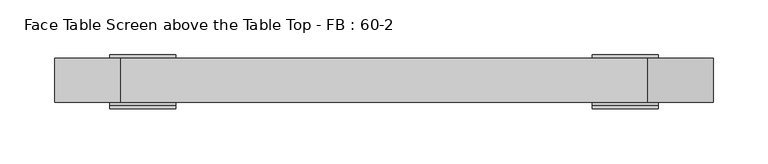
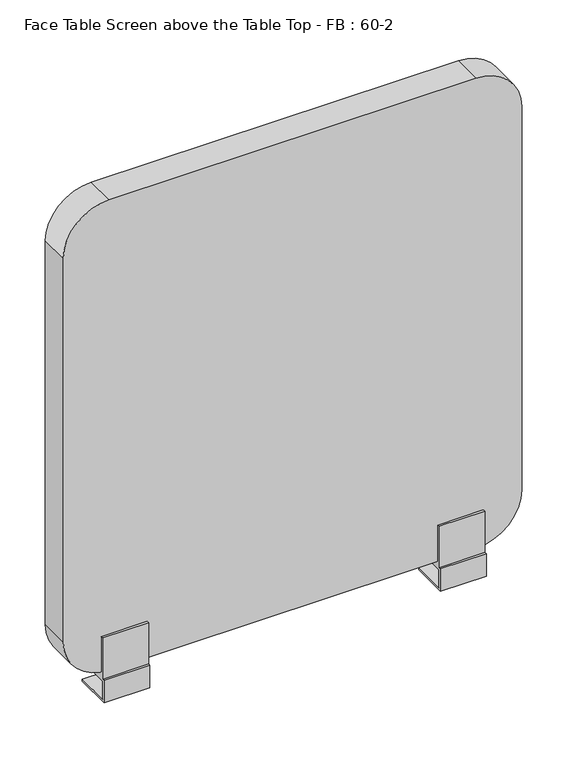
"""IFC4 building model written with IfcOpenShell, lengths in millimetres: furniture geometry, Face Table Screen above the Table Top - FB : 60-2."""

from ifc_helpers import new_model, si_unit, point, frame, frame_2d, origin, place, context, project, spatial, polyline, circle_curve, trimmed, segment, composite_curve, outline, extrude, source, transform, mapped, element, save
from ifc_brep_helpers import plane_surface, cylinder_surface, advanced_brep


def face_table_screen_above_the_table_top_fb_60_2_10286fe6(model_context):
    return source(origin(), model_context, "Body", "SolidModel", [
        advanced_brep(
        [(-225.0, 20.0, -39.4406633), (-215.0, 20.0, -39.4406633), (-215.0, 20.0, -28.0), (-225.0, 20.0, -28.0), (-250.0, 43.0, -25.0), (-250.0, -3.0, -25.0), (-190.0, -3.0, -25.0), (-190.0, 43.0, -25.0), (-250.0, -3.0, 0.0), (-250.0, 43.0, -28.0), (-250.0, -6.0, -28.0), (-250.0, -6.0, 3.0), (-250.0, -3.0, 3.0), (-250.0, -3.0, 60.0), (-250.0, 0.0, 60.0), (-250.0, 0.0, 10.0), (-250.0, 40.0, 10.0), (-250.0, 40.0, 60.0), (-250.0, 43.0, 60.0), (-250.0, 43.0, 0.0), (-190.0, -3.0, 0.0), (-190.0, 43.0, 0.0), (-190.0, 43.0, 60.0), (-190.0, 40.0, 60.0), (-190.0, 40.0, 10.0), (-190.0, 0.0, 10.0), (-190.0, 0.0, 60.0), (-190.0, -3.0, 60.0), (-190.0, -3.0, 3.0), (-190.0, -6.0, 3.0), (-190.0, -6.0, -28.0), (-190.0, 43.0, -28.0)],
        [
            (0, 1, circle_curve(frame((-220.0, 20.0, -39.4406633), z_axis=(0.0, 0.0, -1.0), x_axis=(1.0, 0.0, 0.0)), 5.0)),
            (1, 0, circle_curve(frame((-220.0, 20.0, -39.4406633), z_axis=(0.0, 0.0, -1.0), x_axis=(1.0, 0.0, 0.0)), 5.0)),
            (1, 2),
            (2, 3, circle_curve(frame((-220.0, 20.0, -28.0), z_axis=(0.0, 0.0, -1.0), x_axis=(1.0, 0.0, 0.0)), 5.0)),
            (3, 0),
            (3, 2, circle_curve(frame((-220.0, 20.0, -28.0), z_axis=(0.0, 0.0, -1.0), x_axis=(1.0, 0.0, 0.0)), 5.0)),
            (4, 5),
            (5, 6),
            (6, 7),
            (7, 4),
            (8, 5),
            (4, 9),
            (9, 10),
            (10, 11),
            (11, 12),
            (12, 13),
            (13, 14),
            (14, 15),
            (15, 16),
            (16, 17),
            (17, 18),
            (18, 19),
            (19, 8),
            (20, 21),
            (21, 22),
            (22, 23),
            (23, 24),
            (24, 25),
            (25, 26),
            (26, 27),
            (27, 28),
            (28, 29),
            (29, 30),
            (30, 31),
            (31, 7),
            (6, 20),
            (19, 21),
            (20, 8),
            (18, 22),
            (17, 23),
            (16, 24),
            (15, 25),
            (14, 26),
            (13, 27),
            (12, 28),
            (11, 29),
            (10, 30),
            (9, 31),
        ],
        [
            plane_surface(frame((-215.0, 20.0, -39.4406633), z_axis=(0.0, 0.0, -1.0), x_axis=(0.0, -1.0, 0.0))),
            cylinder_surface(frame((-220.0, 20.0, -39.4406633), z_axis=(0.0, 0.0, 1.0), x_axis=(1.0, 0.0, 0.0)), 5.0),
            plane_surface(frame((-215.0, 20.0, -25.0), z_axis=(0.0, 0.0, 1.0), x_axis=(0.0, 1.0, 0.0))),
            plane_surface(frame((-250.0, 43.0, 0.0), z_axis=(-1.0, 0.0, 0.0), x_axis=(0.0, -1.0, 0.0))),
            plane_surface(frame((-190.0, 43.0, 0.0), z_axis=(1.0, 0.0, 0.0), x_axis=(0.0, 1.0, 0.0))),
            plane_surface(frame((-190.0, -3.0, 0.0), z_axis=(0.0, 0.0, -1.0), x_axis=(-1.0, 0.0, 0.0))),
            plane_surface(frame((-190.0, 43.0, 0.0), z_axis=(0.0, 1.0, 0.0), x_axis=(-1.0, 0.0, 0.0))),
            plane_surface(frame((-190.0, 43.0, 60.0), z_axis=(0.0, 0.0, 1.0), x_axis=(-1.0, 0.0, 0.0))),
            plane_surface(frame((-190.0, 40.0, 60.0), z_axis=(0.0, -1.0, 0.0), x_axis=(-1.0, 0.0, 0.0))),
            plane_surface(frame((-190.0, 40.0, 10.0), z_axis=(0.0, 0.0, 1.0), x_axis=(-1.0, 0.0, 0.0))),
            plane_surface(frame((-190.0, 0.0, 10.0), z_axis=(0.0, 1.0, 0.0), x_axis=(-1.0, 0.0, 0.0))),
            plane_surface(frame((-190.0, 0.0, 60.0), z_axis=(0.0, 0.0, 1.0), x_axis=(-1.0, 0.0, 0.0))),
            plane_surface(frame((-190.0, -3.0, 60.0), z_axis=(0.0, -1.0, 0.0), x_axis=(-1.0, 0.0, 0.0))),
            plane_surface(frame((-190.0, -3.0, 3.0), z_axis=(0.0, 0.0, 1.0), x_axis=(-1.0, 0.0, 0.0))),
            plane_surface(frame((-190.0, -6.0, 3.0), z_axis=(0.0, -1.0, 0.0), x_axis=(-1.0, 0.0, 0.0))),
            plane_surface(frame((-190.0, -6.0, -28.0), z_axis=(0.0, 0.0, -1.0), x_axis=(-1.0, 0.0, 0.0))),
            plane_surface(frame((-190.0, 43.0, -28.0), z_axis=(0.0, 1.0, 0.0), x_axis=(-1.0, 0.0, 0.0))),
            plane_surface(frame((-190.0, -3.0, -25.0), z_axis=(0.0, 1.0, 0.0), x_axis=(-1.0, 0.0, 0.0))),
        ],
        [
            (0, [[1, 2]]),
            (1, [[-2, 3, 4, 5]]),
            (1, [[-1, -5, 6, -3]]),
            (2, [[7, 8, 9, 10]]),
            (3, [[11, -7, 12, 13, 14, 15, 16, 17, 18, 19, 20, 21, 22, 23]]),
            (4, [[24, 25, 26, 27, 28, 29, 30, 31, 32, 33, 34, 35, -9, 36]]),
            (5, [[-23, 37, -24, 38]]),
            (6, [[-22, 39, -25, -37]]),
            (7, [[-21, 40, -26, -39]]),
            (8, [[-20, 41, -27, -40]]),
            (9, [[-19, 42, -28, -41]]),
            (10, [[-18, 43, -29, -42]]),
            (11, [[-17, 44, -30, -43]]),
            (12, [[-16, 45, -31, -44]]),
            (13, [[-15, 46, -32, -45]]),
            (14, [[-14, 47, -33, -46]]),
            (15, [[-13, 48, -34, -47], [-4, -6]]),
            (16, [[-12, -10, -35, -48]]),
            (17, [[-11, -38, -36, -8]]),
        ],
    ),
        advanced_brep(
        [(215.0, 20.0, -39.4406633), (225.0, 20.0, -39.4406633), (225.0, 20.0, -28.0), (215.0, 20.0, -28.0), (190.0, 43.0, -25.0), (190.0, -3.0, -25.0), (250.0, -3.0, -25.0), (250.0, 43.0, -25.0), (190.0, -3.0, 0.0), (190.0, 43.0, -28.0), (190.0, -6.0, -28.0), (190.0, -6.0, 3.0), (190.0, -3.0, 3.0), (190.0, -3.0, 60.0), (190.0, 0.0, 60.0), (190.0, 0.0, 10.0), (190.0, 40.0, 10.0), (190.0, 40.0, 60.0), (190.0, 43.0, 60.0), (190.0, 43.0, 0.0), (250.0, -3.0, 0.0), (250.0, 43.0, 0.0), (250.0, 43.0, 60.0), (250.0, 40.0, 60.0), (250.0, 40.0, 10.0), (250.0, 0.0, 10.0), (250.0, 0.0, 60.0), (250.0, -3.0, 60.0), (250.0, -3.0, 3.0), (250.0, -6.0, 3.0), (250.0, -6.0, -28.0), (250.0, 43.0, -28.0)],
        [
            (0, 1, circle_curve(frame((220.0, 20.0, -39.4406633), z_axis=(0.0, 0.0, -1.0), x_axis=(1.0, 0.0, 0.0)), 5.0)),
            (1, 0, circle_curve(frame((220.0, 20.0, -39.4406633), z_axis=(0.0, 0.0, -1.0), x_axis=(1.0, 0.0, 0.0)), 5.0)),
            (1, 2),
            (2, 3, circle_curve(frame((220.0, 20.0, -28.0), z_axis=(0.0, 0.0, -1.0), x_axis=(1.0, 0.0, 0.0)), 5.0)),
            (3, 0),
            (3, 2, circle_curve(frame((220.0, 20.0, -28.0), z_axis=(0.0, 0.0, -1.0), x_axis=(1.0, 0.0, 0.0)), 5.0)),
            (4, 5),
            (5, 6),
            (6, 7),
            (7, 4),
            (8, 5),
            (4, 9),
            (9, 10),
            (10, 11),
            (11, 12),
            (12, 13),
            (13, 14),
            (14, 15),
            (15, 16),
            (16, 17),
            (17, 18),
            (18, 19),
            (19, 8),
            (20, 21),
            (21, 22),
            (22, 23),
            (23, 24),
            (24, 25),
            (25, 26),
            (26, 27),
            (27, 28),
            (28, 29),
            (29, 30),
            (30, 31),
            (31, 7),
            (6, 20),
            (19, 21),
            (20, 8),
            (18, 22),
            (17, 23),
            (16, 24),
            (15, 25),
            (14, 26),
            (13, 27),
            (12, 28),
            (11, 29),
            (10, 30),
            (9, 31),
        ],
        [
            plane_surface(frame((225.0, 20.0, -39.4406633), z_axis=(0.0, 0.0, -1.0), x_axis=(0.0, -1.0, 0.0))),
            cylinder_surface(frame((220.0, 20.0, -39.4406633), z_axis=(0.0, 0.0, 1.0), x_axis=(1.0, 0.0, 0.0)), 5.0),
            plane_surface(frame((225.0, 20.0, -25.0), z_axis=(0.0, 0.0, 1.0), x_axis=(0.0, 1.0, 0.0))),
            plane_surface(frame((190.0, 43.0, 0.0), z_axis=(-1.0, 0.0, 0.0), x_axis=(0.0, -1.0, 0.0))),
            plane_surface(frame((250.0, 43.0, 0.0), z_axis=(1.0, 0.0, 0.0), x_axis=(0.0, 1.0, 0.0))),
            plane_surface(frame((250.0, -3.0, 0.0), z_axis=(0.0, 0.0, -1.0), x_axis=(-1.0, 0.0, 0.0))),
            plane_surface(frame((250.0, 43.0, 0.0), z_axis=(0.0, 1.0, 0.0), x_axis=(-1.0, 0.0, 0.0))),
            plane_surface(frame((250.0, 43.0, 60.0), z_axis=(0.0, 0.0, 1.0), x_axis=(-1.0, 0.0, 0.0))),
            plane_surface(frame((250.0, 40.0, 60.0), z_axis=(0.0, -1.0, 0.0), x_axis=(-1.0, 0.0, 0.0))),
            plane_surface(frame((250.0, 40.0, 10.0), z_axis=(0.0, 0.0, 1.0), x_axis=(-1.0, 0.0, 0.0))),
            plane_surface(frame((250.0, 0.0, 10.0), z_axis=(0.0, 1.0, 0.0), x_axis=(-1.0, 0.0, 0.0))),
            plane_surface(frame((250.0, 0.0, 60.0), z_axis=(0.0, 0.0, 1.0), x_axis=(-1.0, 0.0, 0.0))),
            plane_surface(frame((250.0, -3.0, 60.0), z_axis=(0.0, -1.0, 0.0), x_axis=(-1.0, 0.0, 0.0))),
            plane_surface(frame((250.0, -3.0, 3.0), z_axis=(0.0, 0.0, 1.0), x_axis=(-1.0, 0.0, 0.0))),
            plane_surface(frame((250.0, -6.0, 3.0), z_axis=(0.0, -1.0, 0.0), x_axis=(-1.0, 0.0, 0.0))),
            plane_surface(frame((250.0, -6.0, -28.0), z_axis=(0.0, 0.0, -1.0), x_axis=(-1.0, 0.0, 0.0))),
            plane_surface(frame((250.0, 43.0, -28.0), z_axis=(0.0, 1.0, 0.0), x_axis=(-1.0, 0.0, 0.0))),
            plane_surface(frame((250.0, -3.0, -25.0), z_axis=(0.0, 1.0, 0.0), x_axis=(-1.0, 0.0, 0.0))),
        ],
        [
            (0, [[1, 2]]),
            (1, [[-2, 3, 4, 5]]),
            (1, [[-1, -5, 6, -3]]),
            (2, [[7, 8, 9, 10]]),
            (3, [[11, -7, 12, 13, 14, 15, 16, 17, 18, 19, 20, 21, 22, 23]]),
            (4, [[24, 25, 26, 27, 28, 29, 30, 31, 32, 33, 34, 35, -9, 36]]),
            (5, [[-23, 37, -24, 38]]),
            (6, [[-22, 39, -25, -37]]),
            (7, [[-21, 40, -26, -39]]),
            (8, [[-20, 41, -27, -40]]),
            (9, [[-19, 42, -28, -41]]),
            (10, [[-18, 43, -29, -42]]),
            (11, [[-17, 44, -30, -43]]),
            (12, [[-16, 45, -31, -44]]),
            (13, [[-15, 46, -32, -45]]),
            (14, [[-14, 47, -33, -46]]),
            (15, [[-13, 48, -34, -47], [-4, -6]]),
            (16, [[-12, -10, -35, -48]]),
            (17, [[-11, -38, -36, -8]]),
        ],
    ),
        extrude(outline(composite_curve([segment(polyline([(660.0, 240.0), (660.0, -240.0)]), True, "CONTINUOUS"), segment(trimmed(circle_curve(frame_2d((600.0, -240.0)), 60.0), [point((660.0, -240.0))], [point((600.0, -300.0))], False, "CARTESIAN"), True, "CONTINUOUS"), segment(polyline([(600.0, -300.0), (70.0, -300.0)]), True, "CONTINUOUS"), segment(trimmed(circle_curve(frame_2d((70.0, -240.0)), 60.0), [point((70.0, -300.0))], [point((10.0, -240.0))], False, "CARTESIAN"), True, "CONTINUOUS"), segment(polyline([(10.0, -240.0), (10.0, 240.0)]), True, "CONTINUOUS"), segment(trimmed(circle_curve(frame_2d((70.0, 240.0)), 60.0), [point((10.0, 240.0))], [point((70.0, 300.0))], False, "CARTESIAN"), True, "CONTINUOUS"), segment(polyline([(70.0, 300.0), (600.0, 300.0)]), True, "CONTINUOUS"), segment(trimmed(circle_curve(frame_2d((600.0, 240.0)), 60.0), [point((600.0, 300.0))], [point((660.0, 240.0))], False, "CARTESIAN"), True, "CONTINUOUS")], self_intersect=False)), frame((0.0, 0.0, 0.0), z_axis=(0.0, 1.0, 0.0), x_axis=(0.0, 0.0, 1.0)), (0.0, 0.0, 1.0), 40.0),
    ])


if __name__ == "__main__":
    model = new_model("IFC4")
    model_context = context("Model", 3, world=origin())
    ifc_project = project(units=[si_unit("LENGTHUNIT", "METRE", prefix="MILLI")], contexts=[model_context])
    site = spatial("IfcSite", under=ifc_project)
    building = spatial("IfcBuilding", under=site)
    placement = place(None, origin())
    face_table_screen_above_the_table_top_fb_60_2_shape = face_table_screen_above_the_table_top_fb_60_2_10286fe6(model_context)
    element("IfcFurniture", 1, ObjectType="Face Table Screen above the Table Top - FB : 60-2", at=placement, inside=building, context=model_context, shape_type="MappedRepresentation", body=[
        mapped(face_table_screen_above_the_table_top_fb_60_2_shape, transform((0.0, 0.0, 0.0), x_axis=(1.0, 0.0, 0.0), y_axis=(0.0, 1.0, 0.0), z_axis=(0.0, 0.0, 1.0))),
    ])
    save(model, "model.ifc")
